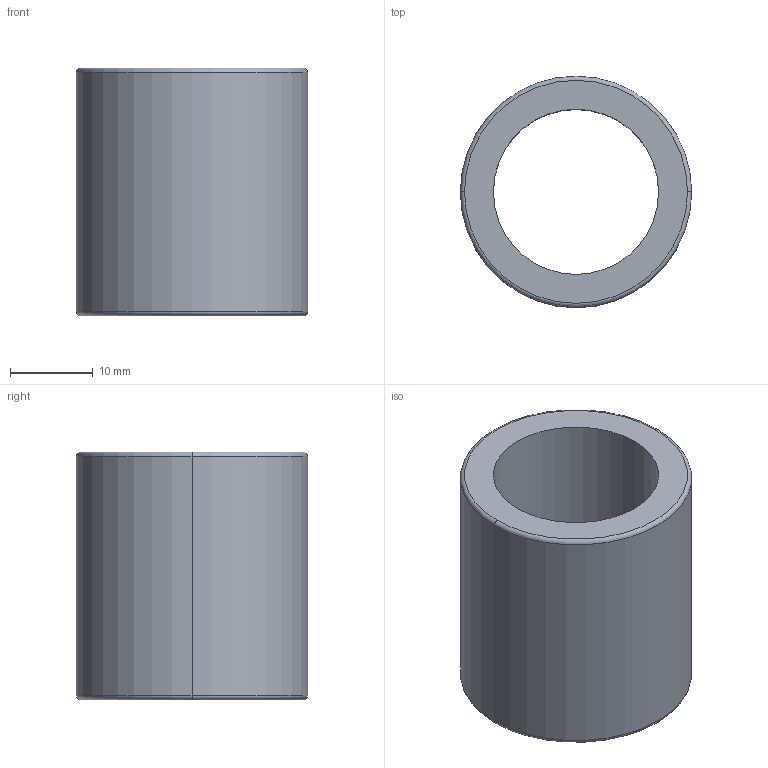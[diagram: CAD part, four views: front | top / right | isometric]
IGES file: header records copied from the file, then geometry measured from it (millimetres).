
Start section: 3D InterOp IGES (Version 21 0 1), Spatial Corp. Copyright (c) 1999-2007.
Global section: file name: CB-20.igs; native system: Spatial Corp.; preprocessor: 3D InterOp GENERIC/IGES 3.0; author: Noname; organization: Noname; date: 20220216.101448; units: millimetre
Bounding box: 28 x 28 x 30 mm (x, y, z)
Surface area: 5089.1 mm2 (no closed solid volume)
Topology: 0 solids, 0 shells, 10 faces, 40 edges, 40 vertices
Faces by surface type: revolution 8, extrusion 2
